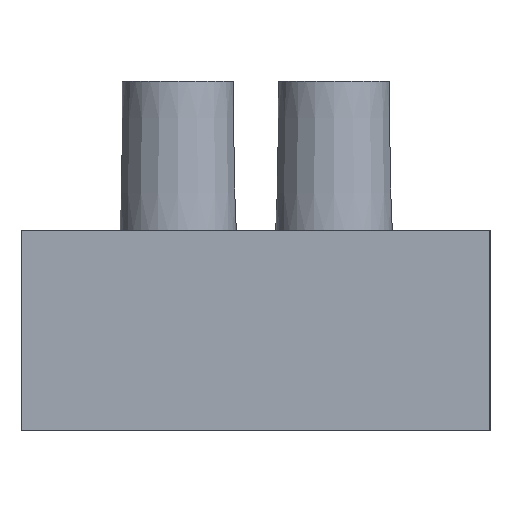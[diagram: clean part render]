
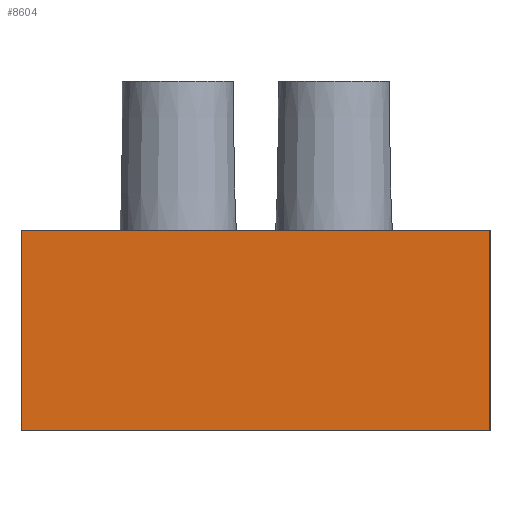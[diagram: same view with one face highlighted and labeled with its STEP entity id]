
A CAD part, left-side view. The second image highlights one B-rep face of the part: STEP entity #8604.
In plain terms, the highlighted planar face has unit normal (-1, 0, 0).
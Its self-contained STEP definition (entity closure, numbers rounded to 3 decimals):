
#2716=ORIENTED_EDGE('',*,*,#3823,.T.);
#2717=ORIENTED_EDGE('',*,*,#3048,.F.);
#2718=ORIENTED_EDGE('',*,*,#3890,.F.);
#2719=ORIENTED_EDGE('',*,*,#3891,.T.);
#3048=EDGE_CURVE('',#4162,#4163,#4958,.T.);
#3823=EDGE_CURVE('',#4640,#4163,#5465,.T.);
#3890=EDGE_CURVE('',#4686,#4162,#5515,.T.);
#3891=EDGE_CURVE('',#4686,#4640,#5516,.T.);
#4162=VERTEX_POINT('',#12541);
#4163=VERTEX_POINT('',#12543);
#4640=VERTEX_POINT('',#14192);
#4686=VERTEX_POINT('',#14336);
#4958=LINE('',#12542,#5788);
#5465=LINE('',#14191,#6295);
#5515=LINE('',#14335,#6345);
#5516=LINE('',#14337,#6346);
#5788=VECTOR('',#9905,1000.);
#6295=VECTOR('',#11742,1000.);
#6345=VECTOR('',#11888,1000.);
#6346=VECTOR('',#11889,1000.);
#7027=EDGE_LOOP('',(#2716,#2717,#2718,#2719));
#7717=FACE_BOUND('',#7027,.T.);
#8106=PLANE('',#9432);
#8604=ADVANCED_FACE('',(#7717),#8106,.F.);
#9432=AXIS2_PLACEMENT_3D('',#14334,#11886,#11887);
#9905=DIRECTION('',(0.,-1.,0.));
#11742=DIRECTION('',(0.,0.,1.));
#11886=DIRECTION('',(1.,0.,0.));
#11887=DIRECTION('',(0.,0.,-1.));
#11888=DIRECTION('',(0.,0.,1.));
#11889=DIRECTION('',(0.,-1.,0.));
#12541=CARTESIAN_POINT('',(-113.3,21.,4.5));
#12542=CARTESIAN_POINT('',(-113.3,21.,4.5));
#12543=CARTESIAN_POINT('',(-113.3,0.,4.5));
#14191=CARTESIAN_POINT('',(-113.3,0.,-4.5));
#14192=CARTESIAN_POINT('',(-113.3,0.,-4.5));
#14334=CARTESIAN_POINT('',(-113.3,21.,-4.5));
#14335=CARTESIAN_POINT('',(-113.3,21.,-4.5));
#14336=CARTESIAN_POINT('',(-113.3,21.,-4.5));
#14337=CARTESIAN_POINT('',(-113.3,21.,-4.5));
